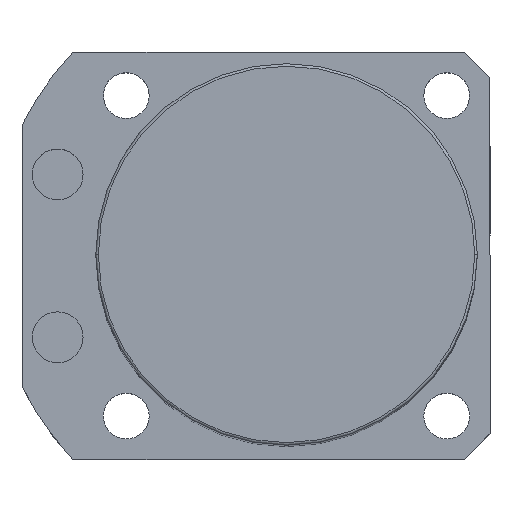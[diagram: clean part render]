
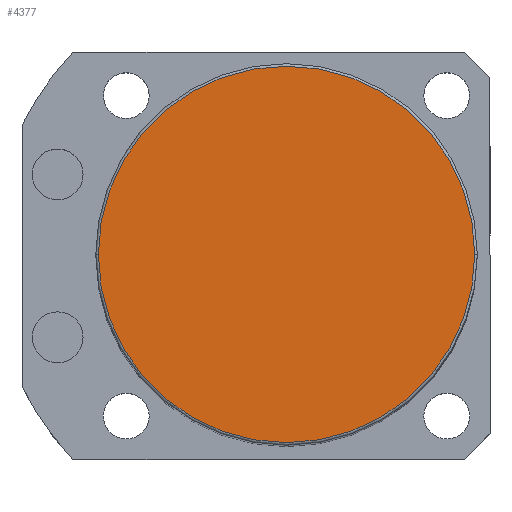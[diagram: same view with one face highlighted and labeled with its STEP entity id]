
A CAD part, top view. The second image highlights one B-rep face of the part: STEP entity #4377.
In plain terms, the highlighted planar face has unit normal (0, 0, 1).
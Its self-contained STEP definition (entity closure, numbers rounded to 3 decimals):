
#112 = CARTESIAN_POINT ( 'NONE',  ( 37., 0., 180.5 ) ) ;
#450 = DIRECTION ( 'NONE',  ( 1., 0., 0. ) ) ;
#541 = FACE_OUTER_BOUND ( 'NONE', #2326, .T. ) ;
#645 = VERTEX_POINT ( 'NONE', #5925 ) ;
#816 = EDGE_CURVE ( 'NONE', #6108, #645, #5724, .T. ) ;
#1645 = CIRCLE ( 'NONE', #2566, 37. ) ;
#1646 = DIRECTION ( 'NONE',  ( 1., 0., 0. ) ) ;
#1748 = DIRECTION ( 'NONE',  ( 0., 0., 1. ) ) ;
#1976 = DIRECTION ( 'NONE',  ( 0., 0., 1. ) ) ;
#2003 = AXIS2_PLACEMENT_3D ( 'NONE', #4265, #5808, #1646 ) ;
#2254 = ORIENTED_EDGE ( 'NONE', *, *, #816, .T. ) ;
#2298 = PLANE ( 'NONE',  #2583 ) ;
#2326 = EDGE_LOOP ( 'NONE', ( #2254, #3380 ) ) ;
#2566 = AXIS2_PLACEMENT_3D ( 'NONE', #4390, #1748, #4920 ) ;
#2583 = AXIS2_PLACEMENT_3D ( 'NONE', #3013, #1976, #450 ) ;
#3013 = CARTESIAN_POINT ( 'NONE',  ( 0., 0., 180.5 ) ) ;
#3380 = ORIENTED_EDGE ( 'NONE', *, *, #5634, .T. ) ;
#4265 = CARTESIAN_POINT ( 'NONE',  ( 0., 0., 180.5 ) ) ;
#4377 = ADVANCED_FACE ( 'NONE', ( #541 ), #2298, .T. ) ;
#4390 = CARTESIAN_POINT ( 'NONE',  ( 0., 0., 180.5 ) ) ;
#4920 = DIRECTION ( 'NONE',  ( 1., 0., 0. ) ) ;
#5634 = EDGE_CURVE ( 'NONE', #645, #6108, #1645, .T. ) ;
#5724 = CIRCLE ( 'NONE', #2003, 37. ) ;
#5808 = DIRECTION ( 'NONE',  ( 0., 0., 1. ) ) ;
#5925 = CARTESIAN_POINT ( 'NONE',  ( -37., 0., 180.5 ) ) ;
#6108 = VERTEX_POINT ( 'NONE', #112 ) ;
